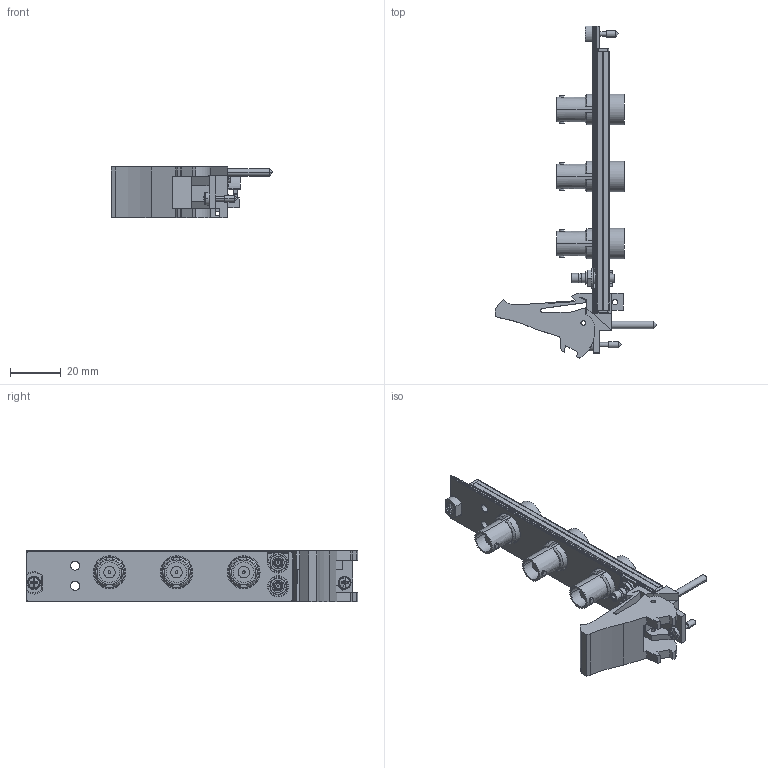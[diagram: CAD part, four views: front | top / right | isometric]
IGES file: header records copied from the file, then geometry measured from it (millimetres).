
Start section:  PTC IGES file: cu_pxi-515x.igs
Global section: file name: cu_pxi-515x.igs; native system: Pro/ENGINEER by Parametric Technology Corporation; preprocessor: 2006080; author: jjorden; organization: Unknown; date: 091202.123751; units: inch
Bounding box: 63.53 x 130.61 x 20.31 mm (x, y, z)
Surface area: 21948.1 mm2 (no closed solid volume)
Topology: 0 solids, 0 shells, 873 faces, 4720 edges, 4716 vertices
Faces by surface type: bspline 497, revolution 376
